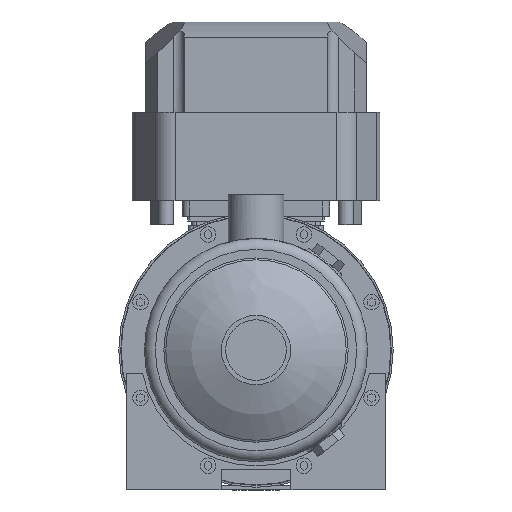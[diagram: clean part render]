
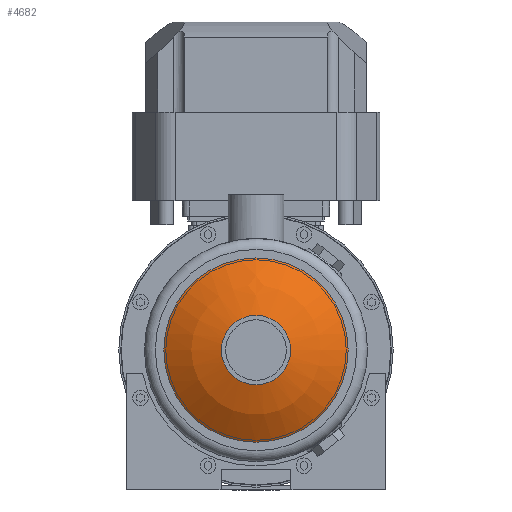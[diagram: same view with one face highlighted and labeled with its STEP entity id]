
A CAD part, left-side view. The second image highlights one B-rep face of the part: STEP entity #4682.
In plain terms, the highlighted spherical face has radius 100 mm.
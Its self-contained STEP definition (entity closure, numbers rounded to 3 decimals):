
#52=SPHERICAL_SURFACE('',#6084,100.);
#1115=ORIENTED_EDGE('',*,*,#2408,.T.);
#1116=ORIENTED_EDGE('',*,*,#2407,.F.);
#2407=EDGE_CURVE('',#3058,#3058,#3505,.T.);
#2408=EDGE_CURVE('',#3059,#3059,#3506,.T.);
#3058=VERTEX_POINT('',#8098);
#3059=VERTEX_POINT('',#8101);
#3505=CIRCLE('',#6083,22.25);
#3506=CIRCLE('',#6085,59.25);
#3691=EDGE_LOOP('',(#1115));
#3692=EDGE_LOOP('',(#1116));
#4096=FACE_BOUND('',#3691,.T.);
#4097=FACE_BOUND('',#3692,.T.);
#4682=ADVANCED_FACE('',(#4096,#4097),#52,.T.);
#6083=AXIS2_PLACEMENT_3D('',#8097,#6613,#6614);
#6084=AXIS2_PLACEMENT_3D('',#8099,#6615,#6616);
#6085=AXIS2_PLACEMENT_3D('',#8100,#6617,#6618);
#6613=DIRECTION('',(-1.,0.,0.));
#6614=DIRECTION('',(0.,0.,1.));
#6615=DIRECTION('',(-1.,0.,0.));
#6616=DIRECTION('',(0.,0.,1.));
#6617=DIRECTION('',(-1.,0.,0.));
#6618=DIRECTION('',(0.,0.,1.));
#8097=CARTESIAN_POINT('',(-91.293,0.,0.));
#8098=CARTESIAN_POINT('',(-91.293,0.,22.25));
#8099=CARTESIAN_POINT('',(6.2,0.,0.));
#8100=CARTESIAN_POINT('',(-74.357,0.,0.));
#8101=CARTESIAN_POINT('',(-74.357,0.,59.25));
